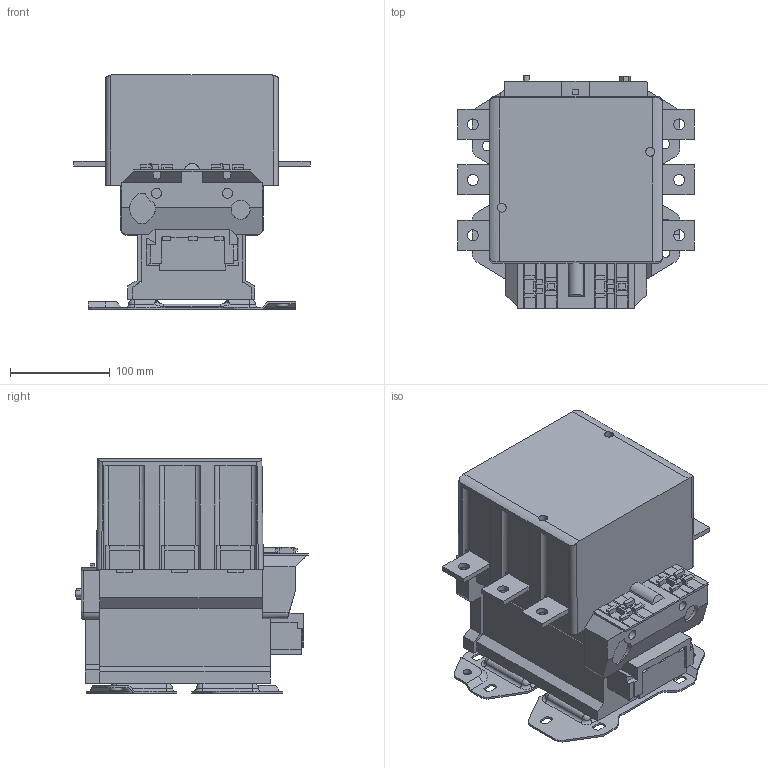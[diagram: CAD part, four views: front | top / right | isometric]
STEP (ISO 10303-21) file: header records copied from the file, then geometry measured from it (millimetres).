
FILE_DESCRIPTION(/* description */ (''),/* implementation_level */ '2;1');
FILE_NAME(/* name */ 'ck3-500.stp',/* time_stamp */ '2022-09-01T10:00:52+08:00',/* author */ (''),/* organization */ (''),/* preprocessor_version */ 'ST-DEVELOPER v14',/* originating_system */ 'SIEMENS PLM Software NX 8.0',/* authorisation */ '');
FILE_SCHEMA (('AP203_CONFIGURATION_CONTROLLED_3D_DESIGN_OF_MECHANICAL_PARTS_AND_ASSEMBLIES_MIM_LF { 1 0 10303 403 2 1 2}'));
Length unit declared in the file: millimetre
Products named in the file (1): Admi0E440BD1i7y7
Bounding box: 236.6 x 233.2 x 235 mm (x, y, z)
Volume: 5829529.7 mm3; surface area: 327742.9 mm2
Topology: 1 solids, 1 shells, 741 faces, 2025 edges, 1315 vertices
Faces by surface type: plane 526, cylinder 143, torus 36, bspline 32, cone 4
Full cylindrical faces by diameter (mm): 6 x1, 8.5 x2, 9 x2, 10 x6, 11 x6, 12 x2, 19 x2
Entity records: 23837 total; most frequent: CARTESIAN_POINT 4969, ORIENTED_EDGE 3986, DIRECTION 3739, EDGE_CURVE 1993, LINE 1551, VECTOR 1551, VERTEX_POINT 1304, AXIS2_PLACEMENT_3D 1094
